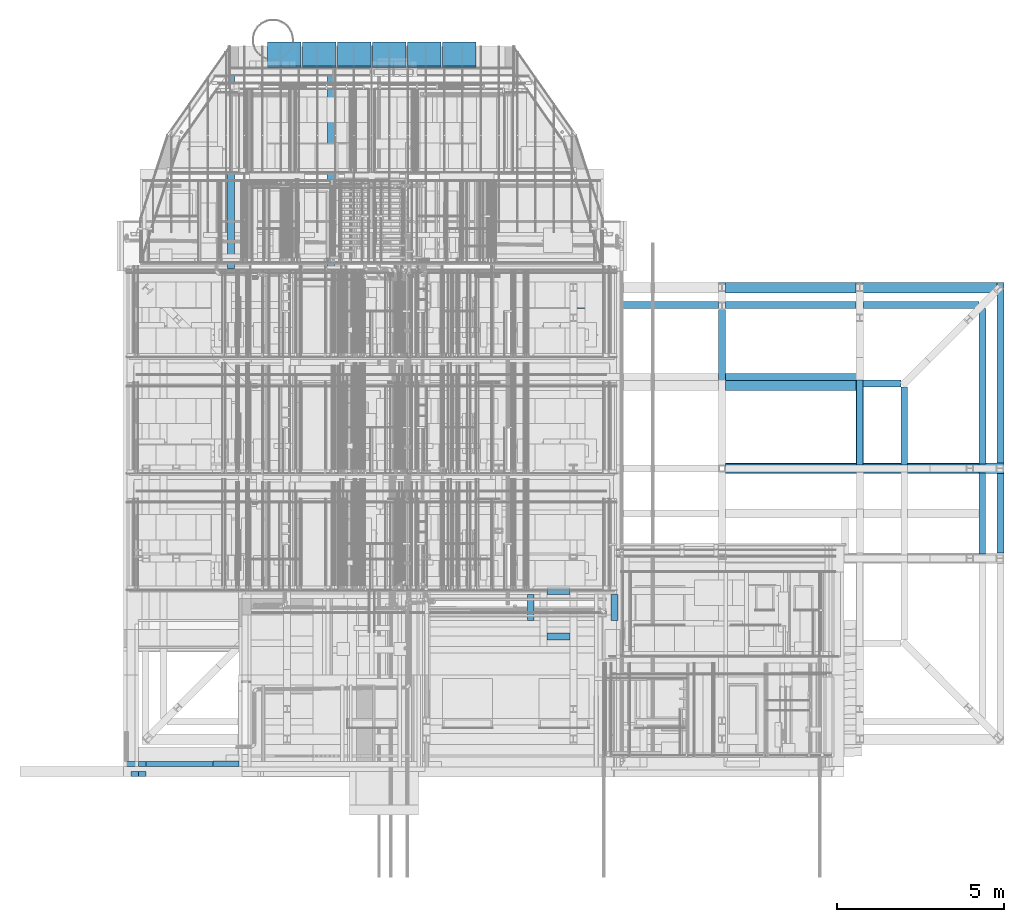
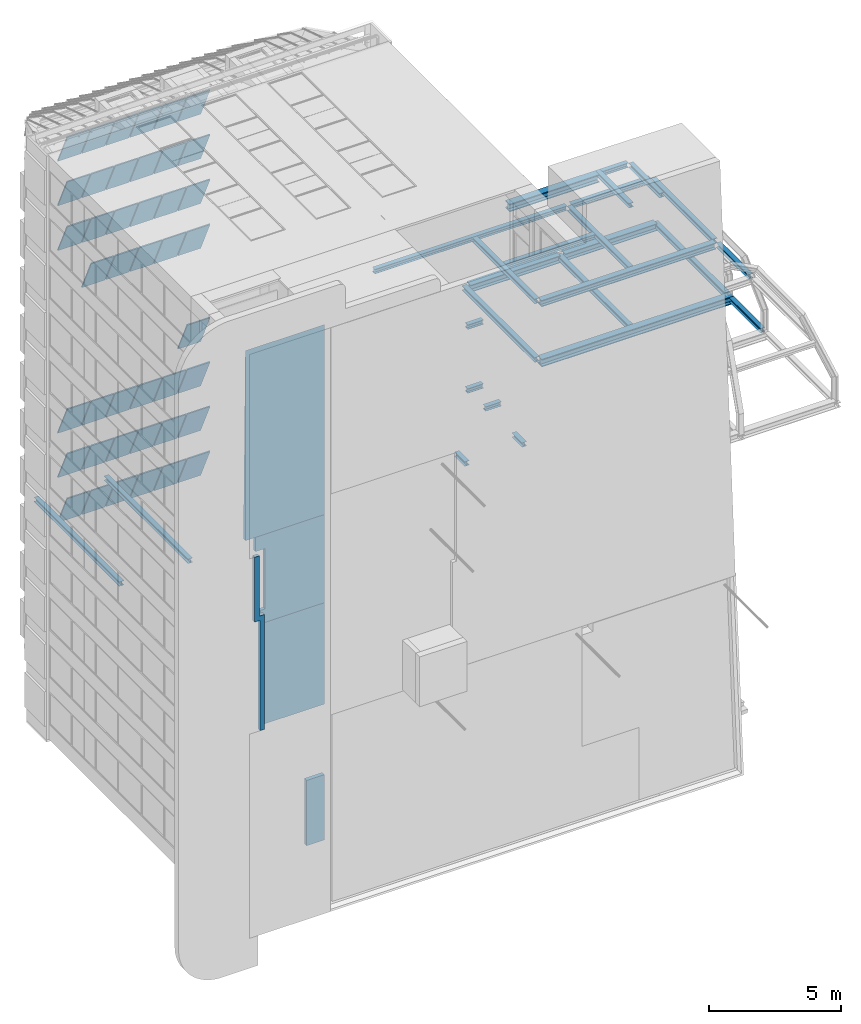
# One storey, part 7 of 583: 42 members, 26 beams, 5 slabs.
"""IFC2X3 building model written with IfcOpenShell, lengths in metres."""

import ifcopenshell
import ifcopenshell.guid

model = None  # the IFC model being written
_history = None  # IfcOwnerHistory: only IFC2X3 demands one
_inside = {}  # id of a spatial element -> (the spatial element, [elements in it])
_under = {}  # id of a project, library or spatial element -> (it, [spatial elements below it])
_declared = {}  # id of a project -> (the project, [libraries it declares])
_typed = {}  # id of a type object -> (the type object, [elements of that type])
_made_of = {}  # id of a material, layer set ... -> (it, [elements and type objects made of it])


def new_model(schema):
    """Start an empty IFC model of exactly this schema.

    Asked for "IFC4X3", IfcOpenShell would pick the latest addendum, in which some entities
    have other attributes; the version numbers below select the first issue.
    IFC2X3 requires an IfcOwnerHistory on every rooted entity: one is made here for all.
    """
    global model, _history
    if schema == "IFC4X3":
        model = ifcopenshell.file(schema_version=(4, 3, 0, 0))
    else:
        model = ifcopenshell.file(schema=schema)
    _inside.clear()
    _under.clear()
    _declared.clear()
    _typed.clear()
    _made_of.clear()
    _history = None
    if model.schema == "IFC2X3":
        org = make("IfcOrganization", Name="unknown")
        user = make(
            "IfcPersonAndOrganization",
            ThePerson=make("IfcPerson", FamilyName="unknown"),
            TheOrganization=org,
        )
        app = make(
            "IfcApplication",
            ApplicationDeveloper=org,
            Version="unknown",
            ApplicationFullName="unknown",
            ApplicationIdentifier="unknown",
        )
        _history = make(
            "IfcOwnerHistory",
            OwningUser=user,
            OwningApplication=app,
            ChangeAction="ADDED",
            CreationDate=0,
        )
    return model


def make(cls, **values):
    """One entity of the class cls with the attributes given. An attribute that is None is left unset."""
    return model.create_entity(
        cls, **{name: value for name, value in values.items() if value is not None}
    )


def entity(cls, *values):
    """Any entity or typed value of the class cls, its attributes in the order of the schema. None: left unset."""
    e = model.create_entity(cls)
    for i, value in enumerate(values):
        if value is not None:
            e[i] = value
    return e


def rooted(cls, **values):
    """An entity with a GlobalId (a new one), such as an element, a storey or a relation."""
    return make(cls, GlobalId=ifcopenshell.guid.new(), OwnerHistory=_history, **values)


def si_unit(unit_type, name, prefix=None):
    """IfcSIUnit, for example si_unit("LENGTHUNIT", "METRE", prefix="MILLI")."""
    return make("IfcSIUnit", UnitType=unit_type, Prefix=prefix, Name=name)


def converted_unit(unit_type, name, factor, base, dimensions=None, offset=None):
    """IfcConversionBasedUnit, such as the inch: factor (a typed value) times the base unit."""
    return make(
        "IfcConversionBasedUnit"
        if offset is None
        else "IfcConversionBasedUnitWithOffset",
        ConversionOffset=offset,
        Dimensions=None
        if dimensions is None
        else entity("IfcDimensionalExponents", *dimensions),
        UnitType=unit_type,
        Name=name,
        ConversionFactor=make(
            "IfcMeasureWithUnit", ValueComponent=factor, UnitComponent=base
        ),
    )


def derived_unit(unit_type, elements):
    """IfcDerivedUnit: a product of units, each with its exponent."""
    return make(
        "IfcDerivedUnit",
        Elements=[
            make("IfcDerivedUnitElement", Unit=unit, Exponent=power)
            for unit, power in elements
        ],
        UnitType=unit_type,
    )


def money_unit(currency):
    """IfcMonetaryUnit."""
    return make("IfcMonetaryUnit", Currency=currency)


def assignment(units):
    """IfcUnitAssignment: the units of a project."""
    return None if units is None else make("IfcUnitAssignment", Units=units)


def point(xyz):
    """IfcCartesianPoint."""
    return None if xyz is None else make("IfcCartesianPoint", Coordinates=xyz)


def direction(xyz):
    """IfcDirection."""
    return None if xyz is None else make("IfcDirection", DirectionRatios=xyz)


def frame(location, z_axis=None, x_axis=None):
    """IfcAxis2Placement3D, a coordinate frame: its origin and axes. An axis left out is left unset."""
    return make(
        "IfcAxis2Placement3D",
        Location=point(location),
        Axis=direction(z_axis),
        RefDirection=direction(x_axis),
    )


def origin_with_axes():
    """The frame at (0, 0, 0) with the z axis (0, 0, 1) and the x axis (1, 0, 0) written out."""
    return frame((0.0, 0.0, 0.0), z_axis=(0.0, 0.0, 1.0), x_axis=(1.0, 0.0, 0.0))


def place(relative_to, where):
    """IfcLocalPlacement: puts the frame where relative to a parent placement (None: the world)."""
    return make(
        "IfcLocalPlacement", PlacementRelTo=relative_to, RelativePlacement=where
    )


def context(
    kind, dimensions, precision=None, world=None, true_north=None, identifier=None
):
    """IfcGeometricRepresentationContext, for example the 3D "Model" context."""
    return make(
        "IfcGeometricRepresentationContext",
        ContextIdentifier=identifier,
        ContextType=kind,
        CoordinateSpaceDimension=dimensions,
        Precision=precision,
        WorldCoordinateSystem=world,
        TrueNorth=true_north,
    )


def subcontext(parent, identifier, kind, view, scale=None):
    """IfcGeometricRepresentationSubContext, for example "Body" below "Model"."""
    return make(
        "IfcGeometricRepresentationSubContext",
        ContextIdentifier=identifier,
        ContextType=kind,
        ParentContext=parent,
        TargetScale=scale,
        TargetView=view,
    )


def project(units=None, contexts=None):
    """IfcProject with its units and contexts."""
    return rooted(
        "IfcProject",
        Name="project",
        RepresentationContexts=contexts,
        UnitsInContext=assignment(units),
    )


def spatial(cls, under=None, at=None, **own):
    """A site, building, storey or space (cls), placed at a placement, below another one or the project."""
    s = rooted(cls, ObjectPlacement=at, **own)
    if under is not None:
        _under.setdefault(under.id(), (under, []))[1].append(s)
    return s


def polyline(points):
    """IfcPolyline through the points."""
    return make("IfcPolyline", Points=[point(p) for p in points])


def outline(outer, holes=None, kind="AREA"):
    """IfcArbitraryClosedProfileDef: a profile drawn as a closed curve; with holes, ...WithVoids."""
    if holes is None:
        return make("IfcArbitraryClosedProfileDef", ProfileType=kind, OuterCurve=outer)
    return make(
        "IfcArbitraryProfileDefWithVoids",
        ProfileType=kind,
        OuterCurve=outer,
        InnerCurves=holes,
    )


def extrude(swept, where, along, depth):
    """IfcExtrudedAreaSolid: the profile swept, set in the frame where, extruded along a direction by depth."""
    return make(
        "IfcExtrudedAreaSolid",
        SweptArea=swept,
        Position=where,
        ExtrudedDirection=direction(along),
        Depth=depth,
    )


def faces_of(points, faces, orient=None, outer=None):
    """IfcFace entities. A face is a list of loops; a loop is a list of indices into points, from 0.

    orient and outer hold one flag for each loop. By default every Orientation is true, the
    first loop of a face is its IfcFaceOuterBound and the others are IfcFaceBound.
    """
    made = []
    for i, loops in enumerate(faces):
        bounds = []
        for j, loop in enumerate(loops):
            is_outer = j == 0 if outer is None else outer[i][j]
            bounds.append(
                make(
                    "IfcFaceOuterBound" if is_outer else "IfcFaceBound",
                    Bound=make("IfcPolyLoop", Polygon=[points[k] for k in loop]),
                    Orientation=True if orient is None else orient[i][j],
                )
            )
        made.append(make("IfcFace", Bounds=bounds))
    return made


def faceted_brep(points, faces, orient=None, outer=None, voids=None):
    """IfcFacetedBrep: a solid bounded by flat faces; with voids (closed shells), ...WithVoids."""
    shared = [point(p) for p in points]
    hull = make("IfcClosedShell", CfsFaces=faces_of(shared, faces, orient, outer))
    if voids is None:
        return make("IfcFacetedBrep", Outer=hull)
    return make(
        "IfcFacetedBrepWithVoids",
        Outer=hull,
        Voids=[
            make(cls, CfsFaces=faces_of(shared, fs, o, b)) for cls, fs, o, b in voids
        ],
    )


def shape(context_of_items, identifier, shape_type, items):
    """IfcShapeRepresentation: the items that make up one representation, for example the "Body"."""
    return make(
        "IfcShapeRepresentation",
        ContextOfItems=context_of_items,
        RepresentationIdentifier=identifier,
        RepresentationType=shape_type,
        Items=items,
    )


def material(Name=None, Category=None):
    """IfcMaterial."""
    return make("IfcMaterial", Name=Name, Category=Category)


def made_of(thing, what):
    """Note that an element or type object is made of a material, layer set ...; save() writes the relation."""
    if what is not None:
        _made_of.setdefault(what.id(), (what, []))[1].append(thing)
    return thing


def type_object(cls, material=None, **own):
    """A type object (cls), such as IfcWallType, which elements share."""
    return made_of(rooted(cls, **own), material)


def element(
    cls,
    number,
    at=None,
    inside=None,
    cuts=None,
    type_object=None,
    material=None,
    context=None,
    identifier="Body",
    shape_type=None,
    held_by="IfcProductDefinitionShape",
    body=None,
    shapes=None,
    **own,
):
    """One element of the class cls, such as IfcWall. Its Tag is "e" and its number.

    at: its placement. inside: the storey or other place that contains it. cuts: it is an
    opening in that element (IfcRelVoidsElement). A single representation is given by context,
    identifier, shape_type and body (its items); several are given by shapes. held_by: the class
    of the entity that holds the representations. save() writes the other relations.
    """
    e = rooted(cls, Tag="e%d" % number, ObjectPlacement=at, **own)
    if body is not None:
        shapes = [shape(context, identifier, shape_type, body)]
    if shapes is not None:
        e.Representation = make(held_by, Representations=shapes)
    if inside is not None:
        _inside.setdefault(inside.id(), (inside, []))[1].append(e)
    if cuts is not None:
        rooted(
            "IfcRelVoidsElement", RelatingBuildingElement=cuts, RelatedOpeningElement=e
        )
    if type_object is not None:
        _typed.setdefault(type_object.id(), (type_object, []))[1].append(e)
    return made_of(e, material)


def aggregate(whole, parts):
    """IfcRelAggregates: a whole, such as a stair, and the parts it consists of."""
    return rooted("IfcRelAggregates", RelatingObject=whole, RelatedObjects=parts)


def save(model, path):
    """Write the relations noted so far, then the file.

    IfcRelAggregates (storeys below a building ...), IfcRelContainedInSpatialStructure (elements
    in a storey), IfcRelDefinesByType, IfcRelAssociatesMaterial and IfcRelDeclares: one each for
    every whole, place, type object, material and project.
    """
    for whole, parts in _under.values():
        aggregate(whole, parts)
    for where, things in _inside.values():
        rooted(
            "IfcRelContainedInSpatialStructure",
            RelatedElements=things,
            RelatingStructure=where,
        )
    for kind, things in _typed.values():
        rooted("IfcRelDefinesByType", RelatedObjects=things, RelatingType=kind)
    for what, things in _made_of.values():
        rooted("IfcRelAssociatesMaterial", RelatedObjects=things, RelatingMaterial=what)
    for by, libraries in _declared.values():
        rooted("IfcRelDeclares", RelatingContext=by, RelatedDefinitions=libraries)
    model.write(path)


model = new_model("IFC2X3")

# Units and contexts
model_context = context("Model", 3, precision=1e-05, world=origin_with_axes(), true_north=direction((0.0, 1.0)))
body_context = subcontext(model_context, "Body", "Model", "MODEL_VIEW", scale=1.0)
ifc_project = project(units=[si_unit("LENGTHUNIT", "METRE"), si_unit("AREAUNIT", "SQUARE_METRE"), si_unit("VOLUMEUNIT", "CUBIC_METRE"), si_unit("ABSORBEDDOSEUNIT", "GRAY"), si_unit("AMOUNTOFSUBSTANCEUNIT", "MOLE"), si_unit("DOSEEQUIVALENTUNIT", "SIEVERT"), si_unit("ELECTRICCAPACITANCEUNIT", "FARAD"), si_unit("ELECTRICCHARGEUNIT", "COULOMB"), si_unit("ELECTRICCONDUCTANCEUNIT", "SIEMENS"), si_unit("ELECTRICCURRENTUNIT", "AMPERE"), si_unit("ELECTRICRESISTANCEUNIT", "OHM"), si_unit("ELECTRICVOLTAGEUNIT", "VOLT"), si_unit("ENERGYUNIT", "JOULE"), si_unit("FORCEUNIT", "NEWTON"), si_unit("FREQUENCYUNIT", "HERTZ"), si_unit("ILLUMINANCEUNIT", "LUX"), si_unit("INDUCTANCEUNIT", "HENRY"), si_unit("LUMINOUSFLUXUNIT", "LUMEN"), si_unit("LUMINOUSINTENSITYUNIT", "CANDELA"), si_unit("MAGNETICFLUXDENSITYUNIT", "TESLA"), si_unit("MAGNETICFLUXUNIT", "WEBER"), si_unit("MASSUNIT", "GRAM"), converted_unit("PLANEANGLEUNIT", "degree", entity("IfcReal", 0.0174532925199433), si_unit("PLANEANGLEUNIT", "RADIAN"), dimensions=[0, 0, 0, 0, 0, 0, 0]), si_unit("POWERUNIT", "WATT"), si_unit("PRESSUREUNIT", "PASCAL"), si_unit("RADIOACTIVITYUNIT", "BECQUEREL"), si_unit("SOLIDANGLEUNIT", "STERADIAN"), si_unit("THERMODYNAMICTEMPERATUREUNIT", "KELVIN"), si_unit("TIMEUNIT", "SECOND"), derived_unit("ACCELERATIONUNIT", [(si_unit("LENGTHUNIT", "METRE"), 1), (si_unit("TIMEUNIT", "SECOND"), -2)]), derived_unit("ANGULARVELOCITYUNIT", [(converted_unit("PLANEANGLEUNIT", "degree", entity("IfcReal", 0.0174532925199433), si_unit("PLANEANGLEUNIT", "RADIAN"), dimensions=[0, 0, 0, 0, 0, 0, 0]), 1), (si_unit("TIMEUNIT", "SECOND"), -1)]), derived_unit("CURVATUREUNIT", [(converted_unit("PLANEANGLEUNIT", "degree", entity("IfcReal", 0.0174532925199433), si_unit("PLANEANGLEUNIT", "RADIAN"), dimensions=[0, 0, 0, 0, 0, 0, 0]), 1), (si_unit("LENGTHUNIT", "METRE"), -1)]), derived_unit("DYNAMICVISCOSITYUNIT", [(si_unit("PRESSUREUNIT", "PASCAL"), 1), (si_unit("TIMEUNIT", "SECOND"), 1)]), derived_unit("HEATFLUXDENSITYUNIT", [(si_unit("POWERUNIT", "WATT"), 1), (si_unit("LENGTHUNIT", "METRE"), -2)]), derived_unit("HEATINGVALUEUNIT", [(si_unit("ENERGYUNIT", "JOULE"), 1), (si_unit("MASSUNIT", "GRAM"), -1)]), derived_unit("INTEGERCOUNTRATEUNIT", [(si_unit("TIMEUNIT", "SECOND"), -1)]), derived_unit("IONCONCENTRATIONUNIT", [(si_unit("MASSUNIT", "GRAM"), 1), (si_unit("VOLUMEUNIT", "CUBIC_METRE"), -1)]), derived_unit("ISOTHERMALMOISTURECAPACITYUNIT", [(si_unit("VOLUMEUNIT", "CUBIC_METRE"), 1), (si_unit("MASSUNIT", "GRAM"), -1)]), derived_unit("KINEMATICVISCOSITYUNIT", [(si_unit("AREAUNIT", "SQUARE_METRE"), 1), (si_unit("TIMEUNIT", "SECOND"), -1)]), derived_unit("LINEARFORCEUNIT", [(si_unit("FORCEUNIT", "NEWTON"), 1), (si_unit("LENGTHUNIT", "METRE"), -1)]), derived_unit("LINEARMOMENTUNIT", [(si_unit("FORCEUNIT", "NEWTON"), 1), (si_unit("LENGTHUNIT", "METRE"), -1)]), derived_unit("LINEARSTIFFNESSUNIT", [(si_unit("FORCEUNIT", "NEWTON"), 1), (si_unit("LENGTHUNIT", "METRE"), -1)]), derived_unit("LINEARVELOCITYUNIT", [(si_unit("LENGTHUNIT", "METRE"), 1), (si_unit("TIMEUNIT", "SECOND"), -1)]), derived_unit("LUMINOUSINTENSITYDISTRIBUTIONUNIT", [(si_unit("LUMINOUSINTENSITYUNIT", "CANDELA"), 1), (si_unit("LUMINOUSFLUXUNIT", "LUMEN"), -1)]), derived_unit("MASSDENSITYUNIT", [(si_unit("MASSUNIT", "GRAM"), 1), (si_unit("VOLUMEUNIT", "CUBIC_METRE"), -1)]), derived_unit("MASSFLOWRATEUNIT", [(si_unit("MASSUNIT", "GRAM"), 1), (si_unit("TIMEUNIT", "SECOND"), -1)]), derived_unit("MASSPERLENGTHUNIT", [(si_unit("MASSUNIT", "GRAM"), 1), (si_unit("LENGTHUNIT", "METRE"), -1)]), derived_unit("MODULUSOFELASTICITYUNIT", [(si_unit("FORCEUNIT", "NEWTON"), 1), (si_unit("AREAUNIT", "SQUARE_METRE"), -1)]), derived_unit("MODULUSOFLINEARSUBGRADEREACTIONUNIT", [(si_unit("FORCEUNIT", "NEWTON"), 1), (si_unit("LENGTHUNIT", "METRE"), -2)]), derived_unit("MODULUSOFROTATIONALSUBGRADEREACTIONUNIT", [(si_unit("FORCEUNIT", "NEWTON"), 1), (si_unit("LENGTHUNIT", "METRE"), 1)]), derived_unit("MODULUSOFSUBGRADEREACTIONUNIT", [(si_unit("FORCEUNIT", "NEWTON"), 1), (si_unit("VOLUMEUNIT", "CUBIC_METRE"), -1)]), derived_unit("MOISTUREDIFFUSIVITYUNIT", [(si_unit("VOLUMEUNIT", "CUBIC_METRE"), 1), (si_unit("TIMEUNIT", "SECOND"), -1)]), derived_unit("MOLECULARWEIGHTUNIT", [(si_unit("MASSUNIT", "GRAM"), 1), (si_unit("AMOUNTOFSUBSTANCEUNIT", "MOLE"), -1)]), derived_unit("PLANARFORCEUNIT", [(si_unit("FORCEUNIT", "NEWTON"), 1), (si_unit("LENGTHUNIT", "METRE"), -2)]), derived_unit("ROTATIONALFREQUENCYUNIT", [(si_unit("TIMEUNIT", "SECOND"), -1)]), derived_unit("ROTATIONALMASSUNIT", [(si_unit("MASSUNIT", "GRAM"), 1), (si_unit("LENGTHUNIT", "METRE"), 2)]), derived_unit("ROTATIONALSTIFFNESSUNIT", [(si_unit("FORCEUNIT", "NEWTON"), 1), (si_unit("LENGTHUNIT", "METRE"), 1), (converted_unit("PLANEANGLEUNIT", "degree", entity("IfcReal", 0.0174532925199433), si_unit("PLANEANGLEUNIT", "RADIAN"), dimensions=[0, 0, 0, 0, 0, 0, 0]), -1)]), derived_unit("SECTIONAREAINTEGRALUNIT", [(si_unit("LENGTHUNIT", "METRE"), 5)]), derived_unit("SECTIONMODULUSUNIT", [(si_unit("LENGTHUNIT", "METRE"), 3)]), derived_unit("SHEARMODULUSUNIT", [(si_unit("FORCEUNIT", "NEWTON"), 1), (si_unit("AREAUNIT", "SQUARE_METRE"), -1)]), derived_unit("SOUNDPOWERUNIT", [(si_unit("ENERGYUNIT", "JOULE"), 1), (si_unit("TIMEUNIT", "SECOND"), -1)]), derived_unit("SPECIFICHEATCAPACITYUNIT", [(si_unit("FORCEUNIT", "NEWTON"), 1), (si_unit("MASSUNIT", "GRAM"), -1), (si_unit("THERMODYNAMICTEMPERATUREUNIT", "KELVIN"), -1)]), derived_unit("TEMPERATUREGRADIENTUNIT", [(si_unit("THERMODYNAMICTEMPERATUREUNIT", "KELVIN"), 1), (si_unit("LENGTHUNIT", "METRE"), -1)]), derived_unit("THERMALADMITTANCEUNIT", [(si_unit("POWERUNIT", "WATT"), 1), (si_unit("AREAUNIT", "SQUARE_METRE"), -1), (si_unit("THERMODYNAMICTEMPERATUREUNIT", "KELVIN"), -1)]), derived_unit("THERMALCONDUCTANCEUNIT", [(si_unit("POWERUNIT", "WATT"), 1), (si_unit("LENGTHUNIT", "METRE"), -1), (si_unit("THERMODYNAMICTEMPERATUREUNIT", "KELVIN"), -1)]), derived_unit("THERMALEXPANSIONCOEFFICIENTUNIT", [(si_unit("THERMODYNAMICTEMPERATUREUNIT", "KELVIN"), -1)]), derived_unit("THERMALRESISTANCEUNIT", [(si_unit("AREAUNIT", "SQUARE_METRE"), 1), (si_unit("POWERUNIT", "WATT"), -1)]), derived_unit("THERMALTRANSMITTANCEUNIT", [(si_unit("POWERUNIT", "WATT"), 1), (si_unit("AREAUNIT", "SQUARE_METRE"), -1), (si_unit("THERMODYNAMICTEMPERATUREUNIT", "KELVIN"), -1)]), derived_unit("TORQUEUNIT", [(si_unit("FORCEUNIT", "NEWTON"), 1), (si_unit("LENGTHUNIT", "METRE"), 1)]), derived_unit("VAPORPERMEABILITYUNIT", [(si_unit("MASSUNIT", "GRAM"), 1), (si_unit("TIMEUNIT", "SECOND"), -1)]), derived_unit("VOLUMETRICFLOWRATEUNIT", [(si_unit("VOLUMEUNIT", "CUBIC_METRE"), 1), (si_unit("TIMEUNIT", "SECOND"), -1)]), derived_unit("WARPINGCONSTANTUNIT", [(si_unit("LENGTHUNIT", "METRE"), 6)]), derived_unit("WARPINGMOMENTUNIT", [(si_unit("FORCEUNIT", "NEWTON"), 1), (si_unit("LENGTHUNIT", "METRE"), 2)]), money_unit("GBP")], contexts=[model_context])

# Site, building, storey
site_placement = place(None, origin_with_axes())
site = spatial("IfcSite", under=ifc_project, at=site_placement, Name="Site", CompositionType="ELEMENT")
building_placement = place(site_placement, origin_with_axes())
building = spatial("IfcBuilding", under=site, at=building_placement, Name="Building01", CompositionType="ELEMENT")
storey_placement = place(building_placement, frame((0.0, 0.0, 20.78), z_axis=(0.0, 0.0, 1.0), x_axis=(1.0, 0.0, 0.0)))
storey = spatial("IfcBuildingStorey", under=building, at=storey_placement, Name="RL", CompositionType="ELEMENT", Elevation=20.78)

# Beams
ifc_material_1 = material(Name="A_BSUK_Beams_Steel")
beam_type = type_object("IfcBeamType", Name="A-Beams-Steel", PredefinedType="BEAM")
beam_1_placement = place(storey_placement, frame((6.327424, 14.800006, -14.8512), z_axis=(0.0, 1.0, 0.0), x_axis=(-1.0, 0.0, 0.0)))
element("IfcBeam", 1, at=beam_1_placement, inside=storey, type_object=beam_type, material=ifc_material_1, Name="A-Beams-Steel", ObjectType="A-Beams-Steel", context=body_context, shape_type="SweptSolid", body=[
    extrude(outline(polyline([(0.2036, 0.0), (0.2036, 0.011), (0.1054, 0.011), (0.1054, 0.1922), (0.2036, 0.1922), (0.2036, 0.2032), (0.0, 0.2032), (0.0, 0.1922), (0.0982, 0.1922), (0.0982, 0.011), (0.0, 0.011), (0.0, 0.0), (0.2036, 0.0)])), origin_with_axes(), (0.0, 0.0, 1.0), 6.356644),
])
beam_2_placement = place(storey_placement, frame((3.327424, 14.800006, -14.8512), z_axis=(0.0, 1.0, 0.0), x_axis=(-1.0, 0.0, 0.0)))
element("IfcBeam", 2, at=beam_2_placement, inside=storey, type_object=beam_type, material=ifc_material_1, Name="A-Beams-Steel", ObjectType="A-Beams-Steel", context=body_context, shape_type="SweptSolid", body=[
    extrude(outline(polyline([(0.2036, 0.0), (0.2036, 0.011), (0.1054, 0.011), (0.1054, 0.1922), (0.2036, 0.1922), (0.2036, 0.2032), (0.0, 0.2032), (0.0, 0.1922), (0.0982, 0.1922), (0.0982, 0.011), (0.0, 0.011), (0.0, 0.0), (0.2036, 0.0)])), origin_with_axes(), (0.0, 0.0, 1.0), 6.467779),
])
beam_3_placement = place(storey_placement, frame((18.06455, 14.0688, -6.0532), z_axis=(1.0, 0.0, 0.0), x_axis=(0.0, 1.0, 0.0)))
element("IfcBeam", 3, at=beam_3_placement, inside=storey, type_object=beam_type, material=ifc_material_1, Name="A-Beams-Steel", ObjectType="A-Beams-Steel", context=body_context, shape_type="SweptSolid", body=[
    extrude(outline(polyline([(0.3112, 0.0), (0.3112, 0.025), (0.1635, 0.025), (0.1635, 0.3021), (0.3112, 0.3021), (0.3112, 0.3271), (0.0, 0.3271), (0.0, 0.3021), (0.1477, 0.3021), (0.1477, 0.025), (0.0, 0.025), (0.0, 0.0), (0.3112, 0.0)])), origin_with_axes(), (0.0, 0.0, 1.0), 3.9209),
])
beam_4_placement = place(storey_placement, frame((18.035, 8.6408, -6.2025), z_axis=(1.0, 0.0, 0.0), x_axis=(0.0, 1.0, 0.0)))
element("IfcBeam", 4, at=beam_4_placement, inside=storey, type_object=beam_type, material=ifc_material_1, Name="A-Beams-Steel", ObjectType="A-Beams-Steel", context=body_context, shape_type="SweptSolid", body=[
    extrude(outline(polyline([(0.3184, 0.0), (0.3184, 0.0377), (0.1707, 0.0377), (0.1707, 0.3148), (0.3184, 0.3148), (0.3184, 0.3525), (0.0, 0.3525), (0.0, 0.3148), (0.1477, 0.3148), (0.1477, 0.0377), (0.0, 0.0377), (0.0, 0.0), (0.3184, 0.0)])), origin_with_axes(), (0.0, 0.0, 1.0), 8.385),
])
beam_5_placement = place(storey_placement, frame((17.85545, 14.38, -6.0722), z_axis=(0.0, -1.0, 0.0), x_axis=(1.0, 0.0, 0.0)))
element("IfcBeam", 5, at=beam_5_placement, inside=storey, type_object=beam_type, material=ifc_material_1, Name="A-Beams-Steel", ObjectType="A-Beams-Steel", context=body_context, shape_type="SweptSolid", body=[
    extrude(outline(polyline([(0.2091, 0.0), (0.2091, 0.0205), (0.1109, 0.0205), (0.1109, 0.2017), (0.2091, 0.2017), (0.2091, 0.2222), (0.0, 0.2222), (0.0, 0.2017), (0.0982, 0.2017), (0.0982, 0.0205), (0.0, 0.0205), (0.0, 0.0), (0.2091, 0.0)])), origin_with_axes(), (0.0, 0.0, 1.0), 5.505),
])
for number, where, z_axis, x_axis, name in (
    (6, (21.98545, 14.38, -6.0722), (0.0, -1.0, 0.0), (1.0, 0.0, 0.0), "A-Beams-Steel"),
    (7, (26.2109, 14.38, -6.0532), (0.0, -1.0, 0.0), (1.0, 0.0, 0.0), "A-Beams-Steel"),
):
    element("IfcBeam", number, at=place(storey_placement, frame(where, z_axis=z_axis, x_axis=x_axis)), inside=storey, type_object=beam_type, material=ifc_material_1, Name=name, ObjectType="A-Beams-Steel", context=body_context, shape_type="SweptSolid", body=[
        extrude(outline(polyline([(0.2091, 0.0), (0.2091, 0.0205), (0.1109, 0.0205), (0.1109, 0.2017), (0.2091, 0.2017), (0.2091, 0.2222), (0.0, 0.2222), (0.0, 0.2017), (0.0982, 0.2017), (0.0982, 0.0205), (0.0, 0.0205), (0.0, 0.0), (0.2091, 0.0)])), origin_with_axes(), (0.0, 0.0, 1.0), 5.4208),
    ])
beam_6_placement = place(storey_placement, frame((26.21365, 8.6408, -6.0532), z_axis=(0.0, -1.0, 0.0), x_axis=(1.0, 0.0, 0.0)))
element("IfcBeam", 8, at=beam_6_placement, inside=storey, type_object=beam_type, material=ifc_material_1, Name="A-Beams-Steel", ObjectType="A-Beams-Steel", context=body_context, shape_type="SweptSolid", body=[
    extrude(outline(polyline([(0.2036, 0.0), (0.2036, 0.011), (0.1054, 0.011), (0.1054, 0.1922), (0.2036, 0.1922), (0.2036, 0.2032), (0.0, 0.2032), (0.0, 0.1922), (0.0982, 0.1922), (0.0982, 0.011), (0.0, 0.011), (0.0, 0.0), (0.2036, 0.0)])), origin_with_axes(), (0.0, 0.0, 1.0), 2.3816),
])
for number, where, z_axis, x_axis, name in (
    (9, (12.1182, 5.0182, -6.0532), (0.0, -1.0, 0.0), (1.0, 0.0, 0.0), "A-Beams-Steel"),
    (10, (14.6282, 5.0182, -6.0532), (0.0, -1.0, 0.0), (1.0, 0.0, 0.0), "A-Beams-Steel"),
):
    element("IfcBeam", number, at=place(storey_placement, frame(where, z_axis=z_axis, x_axis=x_axis)), inside=storey, type_object=beam_type, material=ifc_material_1, Name=name, ObjectType="A-Beams-Steel", context=body_context, shape_type="SweptSolid", body=[
        extrude(outline(polyline([(0.2036, 0.0), (0.2036, 0.011), (0.1054, 0.011), (0.1054, 0.1922), (0.2036, 0.1922), (0.2036, 0.2032), (0.0, 0.2032), (0.0, 0.1922), (0.0982, 0.1922), (0.0982, 0.011), (0.0, 0.011), (0.0, 0.0), (0.2036, 0.0)])), origin_with_axes(), (0.0, 0.0, 1.0), 0.7764),
    ])
beam_7_placement = place(storey_placement, frame((22.19455, 14.0688, -6.0532), z_axis=(1.0, 0.0, 0.0), x_axis=(0.0, 1.0, 0.0)))
element("IfcBeam", 11, at=beam_7_placement, inside=storey, type_object=beam_type, material=ifc_material_1, Name="A-Beams-Steel", ObjectType="A-Beams-Steel", context=body_context, shape_type="SweptSolid", body=[
    extrude(outline(polyline([(0.3112, 0.0), (0.3112, 0.025), (0.1635, 0.025), (0.1635, 0.3021), (0.3112, 0.3021), (0.3112, 0.3271), (0.0, 0.3271), (0.0, 0.3021), (0.1477, 0.3021), (0.1477, 0.025), (0.0, 0.025), (0.0, 0.0), (0.3112, 0.0)])), origin_with_axes(), (0.0, 0.0, 1.0), 4.01635),
])
beam_8_placement = place(storey_placement, frame((21.988166, 11.4492, -0.4032), z_axis=(0.0, -1.0, 0.0), x_axis=(1.0, 0.0, 0.0)))
element("IfcBeam", 12, at=beam_8_placement, inside=storey, type_object=beam_type, material=ifc_material_1, Name="A-Beams-Steel", ObjectType="A-Beams-Steel", context=body_context, shape_type="SweptSolid", body=[
    extrude(outline(polyline([(0.2036, 0.0), (0.2036, 0.011), (0.1054, 0.011), (0.1054, 0.1922), (0.2036, 0.1922), (0.2036, 0.2032), (0.0, 0.2032), (0.0, 0.1922), (0.0982, 0.1922), (0.0982, 0.011), (0.0, 0.011), (0.0, 0.0), (0.2036, 0.0)])), origin_with_axes(), (0.0, 0.0, 1.0), 2.546),
])
beam_9_placement = place(storey_placement, frame((23.325402, 11.2456, -0.4032), z_axis=(0.0, -1.0, 0.0), x_axis=(1.0, 0.0, 0.0)))
element("IfcBeam", 13, at=beam_9_placement, inside=storey, type_object=beam_type, material=ifc_material_1, Name="A-Beams-Steel", ObjectType="A-Beams-Steel", context=body_context, shape_type="SweptSolid", body=[
    extrude(outline(polyline([(0.2036, 0.0), (0.2036, 0.011), (0.1054, 0.011), (0.1054, 0.1922), (0.2036, 0.1922), (0.2036, 0.2032), (0.0, 0.2032), (0.0, 0.1922), (0.0982, 0.1922), (0.0982, 0.011), (0.0, 0.011), (0.0, 0.0), (0.2036, 0.0)])), origin_with_axes(), (0.0, 0.0, 1.0), 2.3424),
])
beam_10_placement = place(storey_placement, frame((22.191766, 11.2456, -0.4032), z_axis=(1.0, 0.0, 0.0), x_axis=(0.0, 1.0, 0.0)))
element("IfcBeam", 14, at=beam_10_placement, inside=storey, type_object=beam_type, material=ifc_material_1, Name="A-Beams-Steel", ObjectType="A-Beams-Steel", context=body_context, shape_type="SweptSolid", body=[
    extrude(outline(polyline([(0.2036, 0.0), (0.2036, 0.011), (0.1054, 0.011), (0.1054, 0.1922), (0.2036, 0.1922), (0.2036, 0.2032), (0.0, 0.2032), (0.0, 0.1922), (0.0982, 0.1922), (0.0982, 0.011), (0.0, 0.011), (0.0, 0.0), (0.2036, 0.0)])), origin_with_axes(), (0.0, 0.0, 1.0), 1.133636),
])
beam_11_placement = place(storey_placement, frame((12.7018, 5.0182, -0.4032), z_axis=(1.0, 0.0, 0.0), x_axis=(0.0, 1.0, 0.0)))
element("IfcBeam", 15, at=beam_11_placement, inside=storey, type_object=beam_type, material=ifc_material_1, Name="A-Beams-Steel", ObjectType="A-Beams-Steel", context=body_context, shape_type="SweptSolid", body=[
    extrude(outline(polyline([(0.2036, 0.0), (0.2036, 0.011), (0.1054, 0.011), (0.1054, 0.1922), (0.2036, 0.1922), (0.2036, 0.2032), (0.0, 0.2032), (0.0, 0.1922), (0.0982, 0.1922), (0.0982, 0.011), (0.0, 0.011), (0.0, 0.0), (0.2036, 0.0)])), origin_with_axes(), (0.0, 0.0, 1.0), 0.6964),
])
beam_12_placement = place(storey_placement, frame((18.0618, 11.1308, -0.5525), z_axis=(1.0, 0.0, 0.0), x_axis=(0.0, 1.0, 0.0)))
element("IfcBeam", 16, at=beam_12_placement, inside=storey, type_object=beam_type, material=ifc_material_1, Name="A-Beams-Steel", ObjectType="A-Beams-Steel", context=body_context, shape_type="SweptSolid", body=[
    extrude(outline(polyline([(0.3184, 0.0), (0.3184, 0.0377), (0.1707, 0.0377), (0.1707, 0.3148), (0.3184, 0.3148), (0.3184, 0.3525), (0.0, 0.3525), (0.0, 0.3148), (0.1477, 0.3148), (0.1477, 0.0377), (0.0, 0.0377), (0.0, 0.0), (0.3184, 0.0)])), origin_with_axes(), (0.0, 0.0, 1.0), 3.926366),
])
beam_13_placement = place(storey_placement, frame((13.6032, 13.5982, -3.3532), z_axis=(1.0, 0.0, 0.0), x_axis=(0.0, 1.0, 0.0)))
element("IfcBeam", 17, at=beam_13_placement, inside=storey, type_object=beam_type, material=ifc_material_1, Name="A-Beams-Steel", ObjectType="A-Beams-Steel", context=body_context, shape_type="SweptSolid", body=[
    extrude(outline(polyline([(0.2036, 0.0), (0.2036, 0.011), (0.1054, 0.011), (0.1054, 0.1922), (0.2036, 0.1922), (0.2036, 0.2032), (0.0, 0.2032), (0.0, 0.1922), (0.0982, 0.1922), (0.0982, 0.011), (0.0, 0.011), (0.0, 0.0), (0.2036, 0.0)])), origin_with_axes(), (0.0, 0.0, 1.0), 8.3936),
])
beam_14_placement = place(storey_placement, frame((22.2032, 13.5982, -3.3532), z_axis=(1.0, 0.0, 0.0), x_axis=(0.0, 1.0, 0.0)))
element("IfcBeam", 18, at=beam_14_placement, inside=storey, type_object=beam_type, material=ifc_material_1, Name="A-Beams-Steel", ObjectType="A-Beams-Steel", context=body_context, shape_type="SweptSolid", body=[
    extrude(outline(polyline([(0.2036, 0.0), (0.2036, 0.011), (0.1054, 0.011), (0.1054, 0.1922), (0.2036, 0.1922), (0.2036, 0.2032), (0.0, 0.2032), (0.0, 0.1922), (0.0982, 0.1922), (0.0982, 0.011), (0.0, 0.011), (0.0, 0.0), (0.2036, 0.0)])), origin_with_axes(), (0.0, 0.0, 1.0), 3.4636),
])
beam_15_placement = place(storey_placement, frame((17.8568, 13.5982, -3.3658), z_axis=(0.0, -1.0, 0.0), x_axis=(1.0, 0.0, 0.0)))
element("IfcBeam", 19, at=beam_15_placement, inside=storey, type_object=beam_type, material=ifc_material_1, Name="A-Beams-Steel", ObjectType="A-Beams-Steel", context=body_context, shape_type="SweptSolid", body=[
    extrude(outline(polyline([(0.2064, 0.0), (0.2064, 0.0173), (0.1082, 0.0173), (0.1082, 0.1985), (0.2064, 0.1985), (0.2064, 0.2158), (0.0, 0.2158), (0.0, 0.1985), (0.0982, 0.1985), (0.0982, 0.0173), (0.0, 0.0173), (0.0, 0.0), (0.2064, 0.0)])), origin_with_axes(), (0.0, 0.0, 1.0), 4.7232),
])
for number, where, z_axis, x_axis, name in (
    (20, (21.9968, 13.5982, -3.3658), (0.0, -1.0, 0.0), (1.0, 0.0, 0.0), "A-Beams-Steel"),
    (21, (25.6668, 13.5982, -3.3658), (0.0, -1.0, 0.0), (1.0, 0.0, 0.0), "A-Beams-Steel"),
):
    element("IfcBeam", number, at=place(storey_placement, frame(where, z_axis=z_axis, x_axis=x_axis)), inside=storey, type_object=beam_type, material=ifc_material_1, Name=name, ObjectType="A-Beams-Steel", context=body_context, shape_type="SweptSolid", body=[
        extrude(outline(polyline([(0.2064, 0.0), (0.2064, 0.0173), (0.1082, 0.0173), (0.1082, 0.1985), (0.2064, 0.1985), (0.2064, 0.2158), (0.0, 0.2158), (0.0, 0.1985), (0.0982, 0.1985), (0.0982, 0.0173), (0.0, 0.0173), (0.0, 0.0), (0.2064, 0.0)])), origin_with_axes(), (0.0, 0.0, 1.0), 4.665573),
    ])
beam_16_placement = place(storey_placement, frame((25.668093, 8.667427, -3.3532), z_axis=(0.0, -1.0, 0.0), x_axis=(1.0, 0.0, 0.0)))
element("IfcBeam", 22, at=beam_16_placement, inside=storey, type_object=beam_type, material=ifc_material_1, Name="A-Beams-Steel", ObjectType="A-Beams-Steel", context=body_context, shape_type="SweptSolid", body=[
    extrude(outline(polyline([(0.2036, 0.0), (0.2036, 0.011), (0.1054, 0.011), (0.1054, 0.1922), (0.2036, 0.1922), (0.2036, 0.2032), (0.0, 0.2032), (0.0, 0.1922), (0.0982, 0.1922), (0.0982, 0.011), (0.0, 0.011), (0.0, 0.0), (0.2036, 0.0)])), origin_with_axes(), (0.0, 0.0, 1.0), 2.434484),
])
for number, where, z_axis, x_axis, name in (
    (23, (12.7018, 5.0182, -3.3532), (1.0, 0.0, 0.0), (0.0, 1.0, 0.0), "A-Beams-Steel"),
    (24, (12.7018, 3.6546, -3.3532), (1.0, 0.0, 0.0), (0.0, 1.0, 0.0), "A-Beams-Steel"),
):
    element("IfcBeam", number, at=place(storey_placement, frame(where, z_axis=z_axis, x_axis=x_axis)), inside=storey, type_object=beam_type, material=ifc_material_1, Name=name, ObjectType="A-Beams-Steel", context=body_context, shape_type="SweptSolid", body=[
        extrude(outline(polyline([(0.2036, 0.0), (0.2036, 0.011), (0.1054, 0.011), (0.1054, 0.1922), (0.2036, 0.1922), (0.2036, 0.2032), (0.0, 0.2032), (0.0, 0.1922), (0.0982, 0.1922), (0.0982, 0.011), (0.0, 0.011), (0.0, 0.0), (0.2036, 0.0)])), origin_with_axes(), (0.0, 0.0, 1.0), 0.695),
    ])
beam_17_placement = place(storey_placement, frame((18.0632, 11.4382, -3.3532), z_axis=(1.0, 0.0, 0.0), x_axis=(0.0, 1.0, 0.0)))
element("IfcBeam", 25, at=beam_17_placement, inside=storey, type_object=beam_type, material=ifc_material_1, Name="A-Beams-Steel", ObjectType="A-Beams-Steel", context=body_context, shape_type="SweptSolid", body=[
    extrude(outline(polyline([(0.2036, 0.0), (0.2036, 0.011), (0.1054, 0.011), (0.1054, 0.1922), (0.2036, 0.1922), (0.2036, 0.2032), (0.0, 0.2032), (0.0, 0.1922), (0.0982, 0.1922), (0.0982, 0.011), (0.0, 0.011), (0.0, 0.0), (0.2036, 0.0)])), origin_with_axes(), (0.0, 0.0, 1.0), 3.9336),
])
beam_18_placement = place(storey_placement, frame((18.035, 8.667427, -3.4391), z_axis=(1.0, 0.0, 0.0), x_axis=(0.0, 1.0, 0.0)))
element("IfcBeam", 26, at=beam_18_placement, inside=storey, type_object=beam_type, material=ifc_material_1, Name="A-Beams-Steel", ObjectType="A-Beams-Steel", context=body_context, shape_type="SweptSolid", body=[
    extrude(outline(polyline([(0.2652, 0.0), (0.2652, 0.0317), (0.1422, 0.0317), (0.1422, 0.2574), (0.2652, 0.2574), (0.2652, 0.2891), (0.0, 0.2891), (0.0, 0.2574), (0.123, 0.2574), (0.123, 0.0317), (0.0, 0.0317), (0.0, 0.0), (0.2652, 0.0)])), origin_with_axes(), (0.0, 0.0, 1.0), 7.6318),
])

# Members
ifc_material_2 = material(Name="A_BSUK_BasePlates")
member_type = type_object("IfcMemberType", Name="A-Baseplate", PredefinedType="PLATE")
for number, where, z_axis, x_axis, name in (
    (27, (9.5735, 21.590851, -12.26849), (0.0, -0.90630779, -0.42261826), (0.0, 0.42261826, -0.90630779), "Solar panel"),
    (28, (9.5735, 21.590851, -14.321673), (0.0, -0.90630779, -0.42261826), (0.0, 0.42261826, -0.90630779), "Solar panel"),
    (29, (9.5735, 21.590851, -16.395988), (0.0, -0.90630779, -0.42261826), (0.0, 0.42261826, -0.90630779), "Solar panel"),
    (30, (8.524048, 21.590851, -12.26849), (0.0, -0.90630779, -0.42261826), (0.0, 0.42261826, -0.90630779), "Solar panel"),
    (31, (8.524048, 21.590851, -14.321673), (0.0, -0.90630779, -0.42261826), (0.0, 0.42261826, -0.90630779), "Solar panel"),
    (32, (8.524048, 21.590851, -16.395988), (0.0, -0.90630779, -0.42261826), (0.0, 0.42261826, -0.90630779), "Solar panel"),
    (33, (7.474596, 21.590851, -12.26849), (0.0, -0.90630779, -0.42261826), (0.0, 0.42261826, -0.90630779), "Solar panel"),
    (34, (7.474596, 21.590851, -14.321673), (0.0, -0.90630779, -0.42261826), (0.0, 0.42261826, -0.90630779), "Solar panel"),
    (35, (7.474596, 21.590851, -16.395988), (0.0, -0.90630779, -0.42261826), (0.0, 0.42261826, -0.90630779), "Solar panel"),
    (36, (6.425145, 21.590851, -12.26849), (0.0, -0.90630779, -0.42261826), (0.0, 0.42261826, -0.90630779), "Solar panel"),
    (37, (6.425145, 21.590851, -14.321673), (0.0, -0.90630779, -0.42261826), (0.0, 0.42261826, -0.90630779), "Solar panel"),
    (38, (6.425145, 21.590851, -16.395988), (0.0, -0.90630779, -0.42261826), (0.0, 0.42261826, -0.90630779), "Solar panel"),
    (39, (5.375693, 21.590851, -12.26849), (0.0, -0.90630779, -0.42261826), (0.0, 0.42261826, -0.90630779), "Solar panel"),
    (40, (5.375693, 21.590851, -14.321673), (0.0, -0.90630779, -0.42261826), (0.0, 0.42261826, -0.90630779), "Solar panel"),
    (41, (5.375693, 21.590851, -16.395988), (0.0, -0.90630779, -0.42261826), (0.0, 0.42261826, -0.90630779), "Solar panel"),
    (42, (4.326241, 21.590851, -12.26849), (0.0, -0.90630779, -0.42261826), (0.0, 0.42261826, -0.90630779), "Solar panel"),
    (43, (4.326241, 21.590851, -14.321673), (0.0, -0.90630779, -0.42261826), (0.0, 0.42261826, -0.90630779), "Solar panel"),
    (44, (4.326241, 21.590851, -16.395988), (0.0, -0.90630779, -0.42261826), (0.0, 0.42261826, -0.90630779), "Solar panel"),
    (45, (9.5735, 21.590851, 0.295265), (0.0, -0.90630779, -0.42261826), (0.0, 0.42261826, -0.90630779), "Solar panel"),
    (46, (9.5735, 21.590851, -1.757918), (0.0, -0.90630779, -0.42261826), (0.0, 0.42261826, -0.90630779), "Solar panel"),
    (47, (9.5735, 21.590851, -3.832232), (0.0, -0.90630779, -0.42261826), (0.0, 0.42261826, -0.90630779), "Solar panel"),
    (48, (8.524048, 21.590851, 0.295265), (0.0, -0.90630779, -0.42261826), (0.0, 0.42261826, -0.90630779), "Solar panel"),
    (49, (8.524048, 21.590851, -1.757918), (0.0, -0.90630779, -0.42261826), (0.0, 0.42261826, -0.90630779), "Solar panel"),
    (50, (8.524048, 21.590851, -3.832232), (0.0, -0.90630779, -0.42261826), (0.0, 0.42261826, -0.90630779), "Solar panel"),
    (51, (7.474596, 21.590851, 0.295265), (0.0, -0.90630779, -0.42261826), (0.0, 0.42261826, -0.90630779), "Solar panel"),
    (52, (7.474596, 21.590851, -1.757918), (0.0, -0.90630779, -0.42261826), (0.0, 0.42261826, -0.90630779), "Solar panel"),
    (53, (7.474596, 21.590851, -3.832232), (0.0, -0.90630779, -0.42261826), (0.0, 0.42261826, -0.90630779), "Solar panel"),
    (54, (6.425145, 21.590851, 0.295265), (0.0, -0.90630779, -0.42261826), (0.0, 0.42261826, -0.90630779), "Solar panel"),
    (55, (6.425145, 21.590851, -1.757918), (0.0, -0.90630779, -0.42261826), (0.0, 0.42261826, -0.90630779), "Solar panel"),
    (56, (6.425145, 21.590851, -3.832232), (0.0, -0.90630779, -0.42261826), (0.0, 0.42261826, -0.90630779), "Solar panel"),
    (57, (5.375693, 21.590851, 0.295265), (0.0, -0.90630779, -0.42261826), (0.0, 0.42261826, -0.90630779), "Solar panel"),
    (58, (5.375693, 21.590851, -1.757918), (0.0, -0.90630779, -0.42261826), (0.0, 0.42261826, -0.90630779), "Solar panel"),
    (59, (5.375693, 21.590851, -3.832232), (0.0, -0.90630779, -0.42261826), (0.0, 0.42261826, -0.90630779), "Solar panel"),
    (60, (4.326241, 21.590851, 0.295265), (0.0, -0.90630779, -0.42261826), (0.0, 0.42261826, -0.90630779), "Solar panel"),
    (61, (4.326241, 21.590851, -1.757918), (0.0, -0.90630779, -0.42261826), (0.0, 0.42261826, -0.90630779), "Solar panel"),
    (62, (4.326241, 21.590851, -3.832232), (0.0, -0.90630779, -0.42261826), (0.0, 0.42261826, -0.90630779), "Solar panel"),
    (63, (9.5735, 21.590851, -5.906546), (0.0, -0.90630779, -0.42261826), (0.0, 0.42261826, -0.90630779), "Solar panel"),
    (64, (8.524048, 21.590851, -5.906546), (0.0, -0.90630779, -0.42261826), (0.0, 0.42261826, -0.90630779), "Solar panel"),
    (65, (7.474596, 21.590851, -5.906546), (0.0, -0.90630779, -0.42261826), (0.0, 0.42261826, -0.90630779), "Solar panel"),
    (66, (6.425145, 21.590851, -5.906546), (0.0, -0.90630779, -0.42261826), (0.0, 0.42261826, -0.90630779), "Solar panel"),
    (67, (5.375693, 21.590851, -5.906546), (0.0, -0.90630779, -0.42261826), (0.0, 0.42261826, -0.90630779), "Solar panel"),
    (68, (9.5735, 21.590851, -10.215307), (0.0, -0.90630779, -0.42261826), (0.0, 0.42261826, -0.90630779), "Solar panel"),
):
    element("IfcMember", number, at=place(storey_placement, frame(where, z_axis=z_axis, x_axis=x_axis)), inside=storey, type_object=member_type, material=ifc_material_2, Name=name, ObjectType="A-Baseplate", context=body_context, shape_type="Brep", body=[
        faceted_brep([(0.0, 0.0, 0.050001), (0.0, 0.0, 1e-06), (0.0, 1.0, 1e-06), (0.0, 1.0, 0.050001), (-1.7, 1.0, 0.050001), (-1.7, 1.0, 1e-06), (-1.7, 0.0, 1e-06), (-1.7, 0.0, 0.050001)], [[[0, 1, 2, 3]], [[4, 5, 6, 7]], [[3, 2, 5, 4]], [[3, 4, 7, 0]], [[7, 6, 1, 0]], [[1, 6, 5, 2]]]),
    ])

# Slabs
ifc_material_3 = material(Name="A_BSUK_Slabs")
slab_type = type_object("IfcSlabType", Name="A-FloorsSlabs A_BSUK_Slabs", PredefinedType="FLOOR")
placement = place(storey_placement, frame((0.0, 0.0, -20.78), z_axis=(0.0, 0.0, 1.0), x_axis=(1.0, 0.0, 0.0)))
element("IfcSlab", 69, at=placement, inside=storey, type_object=slab_type, material=ifc_material_3, Name="A-FloorsSlabs A_BSUK_Slabs", ObjectType="CompoundSlabLeaf", context=body_context, shape_type="Brep", body=[
    faceted_brep([(0.463994, -0.445, 9.437557), (0.463994, -0.295, 9.437557), (0.672774, -0.295, 9.437557), (0.672774, -0.445, 9.437557), (0.463994, -0.445, 14.529762), (0.463994, -0.295, 14.529762), (0.231664, -0.445, 14.529762), (0.231664, -0.295, 14.529762), (0.231664, -0.445, 17.533204), (0.231664, -0.295, 17.533204), (0.449009, -0.445, 17.533212), (0.449009, -0.295, 17.533212), (0.449113, -0.445, 14.745613), (0.449113, -0.295, 14.745613), (0.672774, -0.445, 14.745621), (0.672774, -0.295, 14.745621)], [[[0, 1, 2, 3]], [[4, 5, 1, 0]], [[6, 7, 5, 4]], [[8, 9, 7, 6]], [[10, 11, 9, 8]], [[12, 13, 11, 10]], [[14, 15, 13, 12]], [[3, 2, 15, 14]], [[1, 5, 7, 9, 11, 13, 15, 2]], [[3, 14, 12, 10, 8, 6, 4, 0]]]),
])
element("IfcSlab", 70, at=placement, inside=storey, type_object=slab_type, material=ifc_material_3, Name="A-FloorsSlabs A_BSUK_Slabs", ObjectType="CompoundSlabLeaf", context=body_context, shape_type="Brep", body=[
    faceted_brep([(2.679398, -0.145, 3.157929), (2.679398, 0.025, 3.157929), (3.459398, 0.025, 3.157929), (3.459398, -0.145, 3.157929), (2.679398, -0.145, 6.178553), (2.679398, 0.025, 6.178553), (3.459284, -0.145, 6.178553), (3.459284, 0.025, 6.178553)], [[[0, 1, 2, 3]], [[4, 5, 1, 0]], [[6, 7, 5, 4]], [[3, 2, 7, 6]], [[1, 5, 7, 2]], [[3, 6, 4, 0]]]),
])
element("IfcSlab", 71, at=placement, inside=storey, type_object=slab_type, material=ifc_material_3, Name="A-FloorsSlabs A_BSUK_Slabs", ObjectType="CompoundSlabLeaf", context=body_context, shape_type="Brep", body=[
    faceted_brep([(0.672774, -0.145, 14.124099), (0.672774, 0.0, 14.124099), (3.458986, 0.0, 14.124099), (3.458986, -0.145, 14.124099), (0.672774, -0.145, 14.745621), (0.672774, 0.0, 14.745621), (0.858775, -0.145, 14.745621), (0.858775, 0.0, 14.745621), (0.858775, -0.145, 17.533227), (0.858775, 0.0, 17.533227), (0.449009, -0.145, 17.533227), (0.449009, 0.0, 17.533227), (0.449009, -0.145, 18.19829), (0.449009, 0.0, 18.19829), (3.458834, -0.145, 18.19829), (3.458834, 0.0, 18.19829)], [[[0, 1, 2, 3]], [[4, 5, 1, 0]], [[6, 7, 5, 4]], [[8, 9, 7, 6]], [[10, 11, 9, 8]], [[12, 13, 11, 10]], [[14, 15, 13, 12]], [[3, 2, 15, 14]], [[1, 5, 7, 9, 11, 13, 15, 2]], [[3, 14, 12, 10, 8, 6, 4, 0]]]),
])
element("IfcSlab", 72, at=placement, inside=storey, type_object=slab_type, material=ifc_material_3, Name="A-FloorsSlabs A_BSUK_Slabs", ObjectType="CompoundSlabLeaf", context=body_context, shape_type="Brep", body=[
    faceted_brep([(3.458341, -0.145, 18.19829), (-0.000659, -0.145, 18.19829), (-0.000659, 0.0, 18.19829), (3.458341, 0.0, 18.19829), (3.458341, -0.145, 26.981285), (-0.000659, -0.145, 26.981285)], [[[0, 1, 2, 3]], [[4, 5, 1, 0]], [[3, 2, 5, 4]], [[1, 5, 2]], [[3, 4, 0]]]),
])
element("IfcSlab", 73, at=placement, inside=storey, type_object=slab_type, material=ifc_material_3, Name="A-FloorsSlabs A_BSUK_Slabs", ObjectType="CompoundSlabLeaf", context=body_context, shape_type="Brep", body=[
    faceted_brep([(0.672774, -0.145, 14.124099), (3.458774, -0.145, 14.124099), (3.458774, 0.0, 14.124099), (0.672774, 0.0, 14.124099), (0.672774, -0.145, 9.437531), (3.458774, -0.145, 9.437531)], [[[0, 1, 2, 3]], [[4, 5, 1, 0]], [[3, 2, 5, 4]], [[1, 5, 2]], [[3, 4, 0]]]),
])

save(model, "model.ifc")
